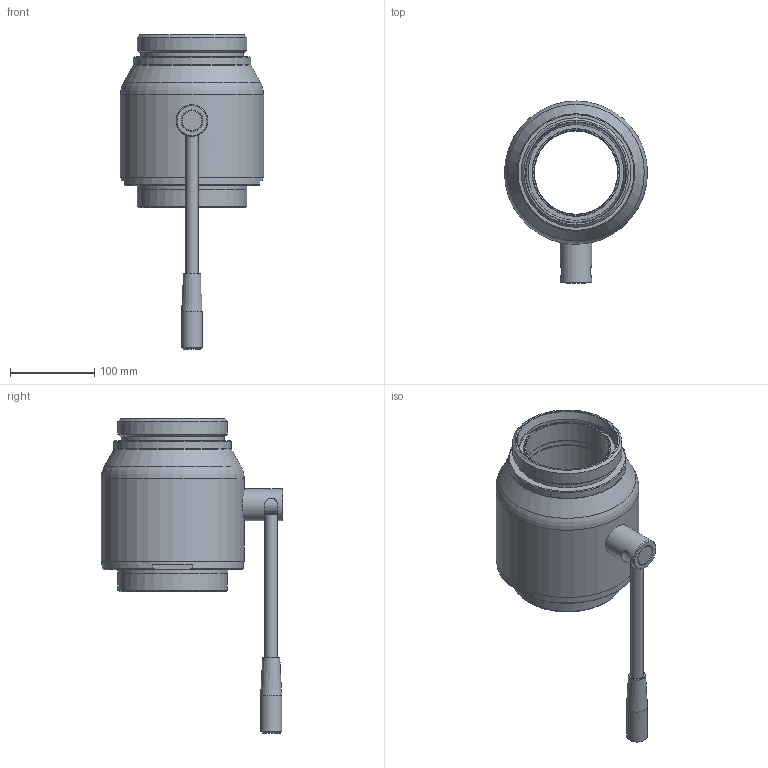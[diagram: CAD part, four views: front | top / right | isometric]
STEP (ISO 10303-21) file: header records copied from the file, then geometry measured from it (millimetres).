
FILE_DESCRIPTION(/* description */ ('Unknown'),/* implementation_level */ '2;1');
FILE_NAME(/* name */ '81SP-100',/* time_stamp */ '2020-04-02T16:15:52+02:00',/* author */ ('Unknown'),/* organization */ ('Unknown'),/* preprocessor_version */ 'ST-DEVELOPER v16.7',/* originating_system */ 'DEX',/* authorisation */ $);
FILE_SCHEMA (('AUTOMOTIVE_DESIGN {1 0 10303 214 3 1 1}'));
Length unit declared in the file: millimetre
Products named in the file (1): 81SP-100
Bounding box: 170 x 216 x 373.15 mm (x, y, z)
Volume: 1504300.5 mm3; surface area: 459526.4 mm2
Topology: 2 solids, 6 shells, 168 faces, 351 edges, 221 vertices
Faces by surface type: plane 59, cylinder 53, cone 43, torus 9, sphere 4
Full cylindrical faces by diameter (mm): 11.835 x1, 15 x1, 15.1 x1, 20.5 x3, 24.5 x4, 24.7 x1, 24.8 x1, 25 x5, 25.3 x1, 28 x1, 30 x1, 31 x1, 37.7 x1, 38 x1, 99 x5, 104 x2, 107 x1, 113.8 x2, 120 x1, 120.5 x1, 122 x1, 130 x3, 132.1 x1, 132.4 x1, 139.5 x1, 158.6 x1, 160 x1, 160.035 x2, 168 x1, 170 x1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
Entity records: 4984 total; most frequent: CARTESIAN_POINT 729, DIRECTION 704, ORIENTED_EDGE 432, AXIS2_PLACEMENT_3D 337, FACE_BOUND 314, EDGE_LOOP 312, EDGE_CURVE 216, VERTEX_POINT 190
